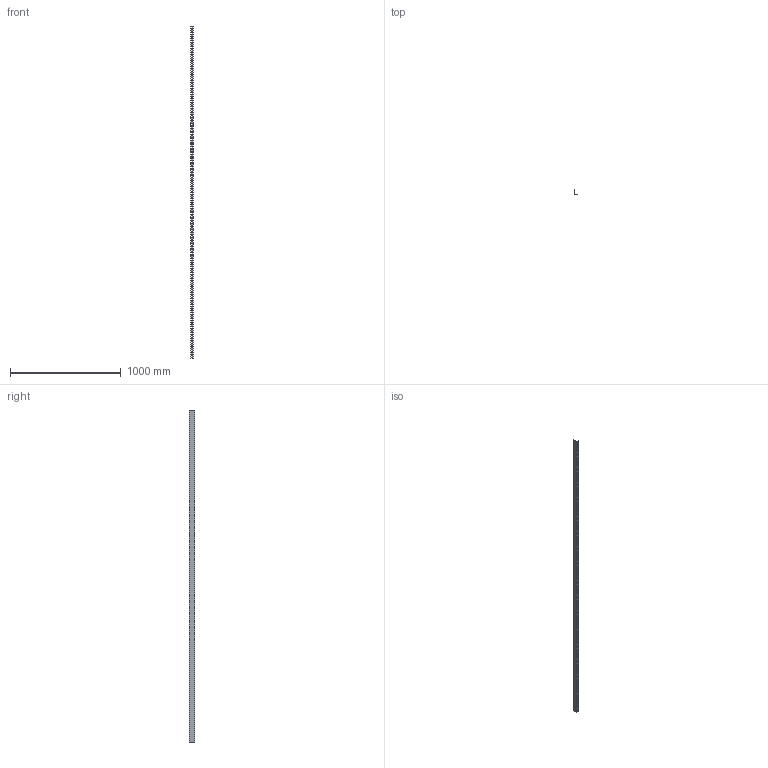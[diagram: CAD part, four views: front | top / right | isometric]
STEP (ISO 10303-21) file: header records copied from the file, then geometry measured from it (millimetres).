
FILE_DESCRIPTION (( 'STEP AP214' ), '1' );
FILE_NAME ('50G3B.step', '2025-02-21T14:23:21', ( '' ), ( '' ), 'SwSTEP 2.0', 'SolidWorks 2023', '' );
FILE_SCHEMA (( 'AUTOMOTIVE_DESIGN' ));
Length unit declared in the file: millimetre
Products named in the file (1): 50G3B
Bounding box: 22 x 47 x 3000 mm (x, y, z)
Volume: 153600 mm3; surface area: 392595.5 mm2
Topology: 1 solids, 1 shells, 296 faces, 882 edges, 588 vertices
Faces by surface type: plane 296
Entity records: 10037 total; most frequent: CARTESIAN_POINT 1767, ORIENTED_EDGE 1764, DIRECTION 1476, VECTOR 882, LINE 882, EDGE_CURVE 882, VERTEX_POINT 588, EDGE_LOOP 440
